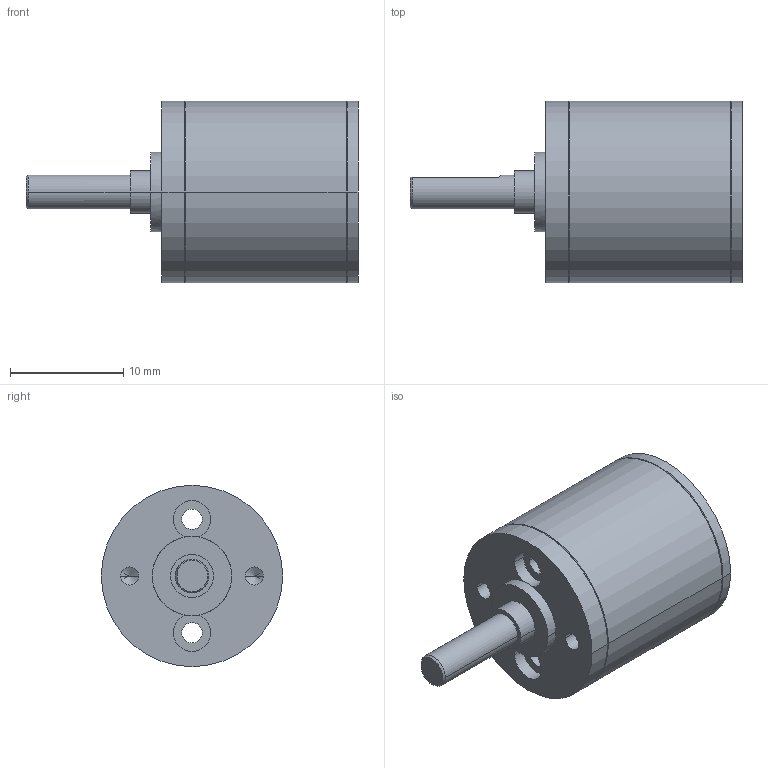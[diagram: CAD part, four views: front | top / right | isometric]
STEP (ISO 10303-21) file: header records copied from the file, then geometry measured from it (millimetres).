
FILE_DESCRIPTION((''),'2;1');
FILE_NAME('GS16V','2016-10-06T',('mmagpetk'),(''),'CREO PARAMETRIC BY PTC INC, 2016050','CREO PARAMETRIC BY PTC INC, 2016050','');
FILE_SCHEMA(('CONFIG_CONTROL_DESIGN'));
Length unit declared in the file: millimetre
Products named in the file (1): GS16V
Bounding box: 29.3 x 16 x 16 mm (x, y, z)
Volume: 3144.7 mm3; surface area: 1908.5 mm2
Topology: 1 solids, 1 shells, 51 faces, 115 edges, 68 vertices
Faces by surface type: cylinder 26, cone 13, plane 12
Entity records: 1866 total; most frequent: DIRECTION 274, CARTESIAN_POINT 242, ORIENTED_EDGE 222, AXIS2_PLACEMENT_3D 116, PRESENTATION_STYLE_ASSIGNMENT 112, STYLED_ITEM 112, CURVE_STYLE 111, EDGE_CURVE 111
